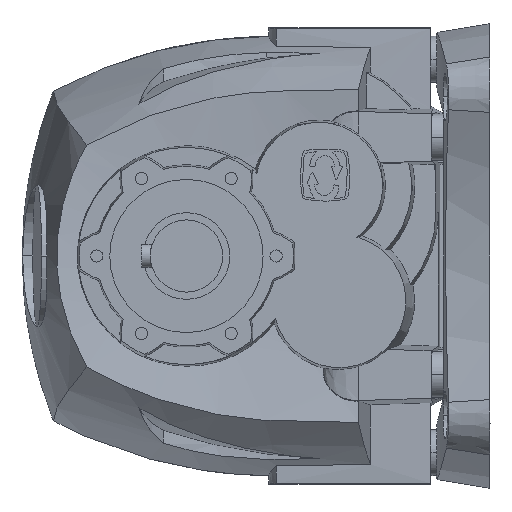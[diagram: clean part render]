
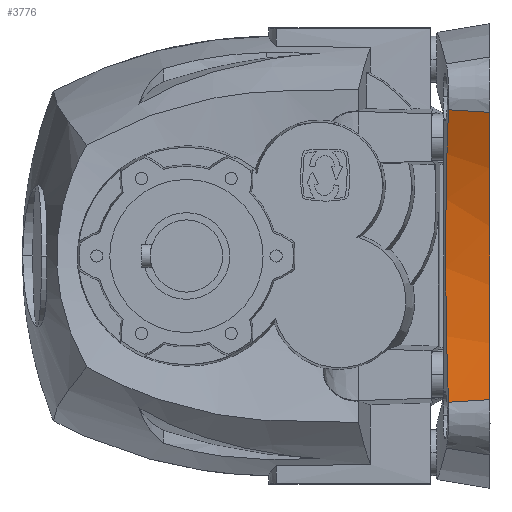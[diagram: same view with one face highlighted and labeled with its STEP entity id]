
A CAD part, left-side view. The second image highlights one B-rep face of the part: STEP entity #3776.
In plain terms, the highlighted conical face has half-angle 10 degrees and reference radius 142.72 mm.
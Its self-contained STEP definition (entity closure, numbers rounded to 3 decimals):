
#106 = FACE_OUTER_BOUND ( 'NONE', #12257, .T. ) ;
#109 = CONICAL_SURFACE ( 'NONE', #5279, 142.72, 0.175 ) ;
#3498 = DIRECTION ( 'NONE',  ( -1., 0., 0. ) ) ;
#3499 = DIRECTION ( 'NONE',  ( 0., 1., 0. ) ) ;
#3527 = CARTESIAN_POINT ( 'NONE',  ( -216.914, -89.576, 0. ) ) ;
#3776 = ADVANCED_FACE ( 'NONE', ( #106 ), #109, .F. ) ;
#4949 = VERTEX_POINT ( 'NONE', #13581 ) ;
#4950 = VERTEX_POINT ( 'NONE', #13582 ) ;
#4955 = VERTEX_POINT ( 'NONE', #13587 ) ;
#4967 = VERTEX_POINT ( 'NONE', #13599 ) ;
#5279 = AXIS2_PLACEMENT_3D ( 'NONE', #3527, #3499, #3498 ) ;
#8532 = EDGE_CURVE ( 'NONE', #4949, #4955, #16089, .T. ) ;
#8559 = ORIENTED_EDGE ( 'NONE', *, *, #8532, .F. ) ;
#8577 = EDGE_CURVE ( 'NONE', #4955, #4967, #16101, .T. ) ;
#8578 = ORIENTED_EDGE ( 'NONE', *, *, #8603, .F. ) ;
#8587 = ORIENTED_EDGE ( 'NONE', *, *, #8605, .T. ) ;
#8589 = ORIENTED_EDGE ( 'NONE', *, *, #8577, .F. ) ;
#8603 = EDGE_CURVE ( 'NONE', #4950, #4949, #16104, .T. ) ;
#8605 = EDGE_CURVE ( 'NONE', #4950, #4967, #18452, .T. ) ;
#12257 = EDGE_LOOP ( 'NONE', ( #8559, #8578, #8587, #8589 ) ) ;
#13581 = CARTESIAN_POINT ( 'NONE',  ( -83.655, -90.629, -50.577 ) ) ;
#13582 = CARTESIAN_POINT ( 'NONE',  ( -86.024, -105., -49.677 ) ) ;
#13587 = CARTESIAN_POINT ( 'NONE',  ( -83.655, -90.629, 50.577 ) ) ;
#13599 = CARTESIAN_POINT ( 'NONE',  ( -86.024, -105., 49.677 ) ) ;
#16089 = B_SPLINE_CURVE_WITH_KNOTS ( 'NONE', 3,
 ( #20404, #20400, #20436, #20437, #20438, #20439, #20440, #20441, #20442, #20443, #20444, #20445, #20446, #20447, #20448, #20449, #20450, #20451, #20452, #20453, #20454, #20455, #20456, #20457 ),
 .UNSPECIFIED., .F., .F.,
 ( 4, 2, 2, 2, 2, 2, 2, 2, 2, 2, 2, 4 ),
 ( 0., 0.013, 0.026, 0.039, 0.045, 0.048, 0.051, 0.064, 0.077, 0.09, 0.097, 0.103 ),
 .UNSPECIFIED. ) ;
#16101 = B_SPLINE_CURVE_WITH_KNOTS ( 'NONE', 1,
 ( #20589, #20583 ),
 .UNSPECIFIED., .F., .F.,
 ( 2, 2 ),
 ( 0., 1. ),
 .UNSPECIFIED. ) ;
#16104 = B_SPLINE_CURVE_WITH_KNOTS ( 'NONE', 1,
 ( #20622, #20624 ),
 .UNSPECIFIED., .F., .F.,
 ( 2, 2 ),
 ( 0., 1. ),
 .UNSPECIFIED. ) ;
#17666 = AXIS2_PLACEMENT_3D ( 'NONE', #20630, #20631, #20632 ) ;
#18452 = CIRCLE ( 'NONE', #17666, 140. ) ;
#20400 = CARTESIAN_POINT ( 'NONE',  ( -82.084, -90.459, -46.523 ) ) ;
#20404 = CARTESIAN_POINT ( 'NONE',  ( -83.655, -90.629, -50.577 ) ) ;
#20436 = CARTESIAN_POINT ( 'NONE',  ( -80.715, -90.315, -42.427 ) ) ;
#20437 = CARTESIAN_POINT ( 'NONE',  ( -78.365, -90.074, -34.155 ) ) ;
#20438 = CARTESIAN_POINT ( 'NONE',  ( -77.384, -89.976, -29.979 ) ) ;
#20439 = CARTESIAN_POINT ( 'NONE',  ( -75.809, -89.821, -21.547 ) ) ;
#20440 = CARTESIAN_POINT ( 'NONE',  ( -75.213, -89.764, -17.291 ) ) ;
#20441 = CARTESIAN_POINT ( 'NONE',  ( -74.614, -89.706, -10.847 ) ) ;
#20442 = CARTESIAN_POINT ( 'NONE',  ( -74.463, -89.692, -8.689 ) ) ;
#20443 = CARTESIAN_POINT ( 'NONE',  ( -74.311, -89.677, -5.436 ) ) ;
#20444 = CARTESIAN_POINT ( 'NONE',  ( -74.273, -89.674, -4.348 ) ) ;
#20445 = CARTESIAN_POINT ( 'NONE',  ( -74.223, -89.669, -2.177 ) ) ;
#20446 = CARTESIAN_POINT ( 'NONE',  ( -74.21, -89.668, -1.094 ) ) ;
#20447 = CARTESIAN_POINT ( 'NONE',  ( -74.21, -89.668, 4.317 ) ) ;
#20448 = CARTESIAN_POINT ( 'NONE',  ( -74.409, -89.687, 8.618 ) ) ;
#20449 = CARTESIAN_POINT ( 'NONE',  ( -75.198, -89.762, 17.167 ) ) ;
#20450 = CARTESIAN_POINT ( 'NONE',  ( -75.788, -89.819, 21.415 ) ) ;
#20451 = CARTESIAN_POINT ( 'NONE',  ( -77.358, -89.974, 29.858 ) ) ;
#20452 = CARTESIAN_POINT ( 'NONE',  ( -78.338, -90.071, 34.053 ) ) ;
#20453 = CARTESIAN_POINT ( 'NONE',  ( -80.111, -90.253, 40.304 ) ) ;
#20454 = CARTESIAN_POINT ( 'NONE',  ( -80.753, -90.32, 42.384 ) ) ;
#20455 = CARTESIAN_POINT ( 'NONE',  ( -82.132, -90.465, 46.506 ) ) ;
#20456 = CARTESIAN_POINT ( 'NONE',  ( -82.869, -90.544, 48.55 ) ) ;
#20457 = CARTESIAN_POINT ( 'NONE',  ( -83.655, -90.629, 50.577 ) ) ;
#20583 = CARTESIAN_POINT ( 'NONE',  ( -86.024, -105., 49.677 ) ) ;
#20589 = CARTESIAN_POINT ( 'NONE',  ( -83.655, -90.629, 50.577 ) ) ;
#20622 = CARTESIAN_POINT ( 'NONE',  ( -86.024, -105., -49.677 ) ) ;
#20624 = CARTESIAN_POINT ( 'NONE',  ( -83.655, -90.629, -50.577 ) ) ;
#20630 = CARTESIAN_POINT ( 'NONE',  ( -216.914, -105., 0. ) ) ;
#20631 = DIRECTION ( 'NONE',  ( 0., -1., 0. ) ) ;
#20632 = DIRECTION ( 'NONE',  ( -1., 0., 0. ) ) ;
